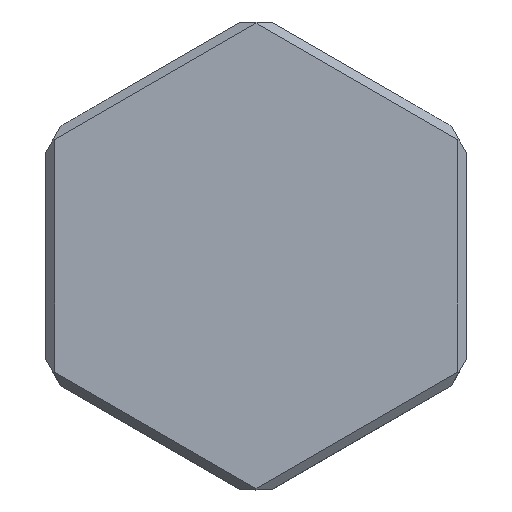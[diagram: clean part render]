
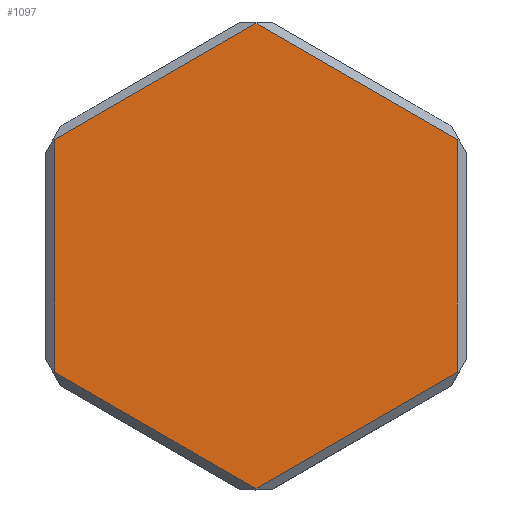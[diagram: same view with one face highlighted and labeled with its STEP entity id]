
A CAD part, top view. The second image highlights one B-rep face of the part: STEP entity #1097.
In plain terms, the highlighted planar face has unit normal (0, 0, 1).
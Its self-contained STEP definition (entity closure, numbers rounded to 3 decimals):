
#907 = VERTEX_POINT('',#908);
#908 = CARTESIAN_POINT('',(0.,63.147,3.5));
#930 = VERTEX_POINT('',#931);
#931 = CARTESIAN_POINT('',(-11.386,56.574,3.5));
#937 = EDGE_CURVE('',#907,#930,#938,.T.);
#938 = LINE('',#939,#940);
#939 = CARTESIAN_POINT('',(0.25,63.292,3.5));
#940 = VECTOR('',#941,1.);
#941 = DIRECTION('',(-0.866,-0.5,0.));
#1064 = VERTEX_POINT('',#1065);
#1065 = CARTESIAN_POINT('',(11.386,56.574,3.5));
#1087 = EDGE_CURVE('',#1064,#907,#1088,.T.);
#1088 = LINE('',#1089,#1090);
#1089 = CARTESIAN_POINT('',(11.636,56.429,3.5));
#1090 = VECTOR('',#1091,1.);
#1091 = DIRECTION('',(-0.866,0.5,0.));
#1097 = ADVANCED_FACE('',(#1098),#1132,.T.);
#1098 = FACE_BOUND('',#1099,.T.);
#1099 = EDGE_LOOP('',(#1100,#1110,#1116,#1117,#1118,#1126));
#1100 = ORIENTED_EDGE('',*,*,#1101,.T.);
#1101 = EDGE_CURVE('',#1102,#1104,#1106,.T.);
#1102 = VERTEX_POINT('',#1103);
#1103 = CARTESIAN_POINT('',(0.,36.853,3.5));
#1104 = VERTEX_POINT('',#1105);
#1105 = CARTESIAN_POINT('',(11.386,43.426,3.5));
#1106 = LINE('',#1107,#1108);
#1107 = CARTESIAN_POINT('',(-0.25,36.708,3.5));
#1108 = VECTOR('',#1109,1.);
#1109 = DIRECTION('',(0.866,0.5,0.));
#1110 = ORIENTED_EDGE('',*,*,#1111,.T.);
#1111 = EDGE_CURVE('',#1104,#1064,#1112,.T.);
#1112 = LINE('',#1113,#1114);
#1113 = CARTESIAN_POINT('',(11.386,43.138,3.5));
#1114 = VECTOR('',#1115,1.);
#1115 = DIRECTION('',(0.,1.,0.));
#1116 = ORIENTED_EDGE('',*,*,#1087,.T.);
#1117 = ORIENTED_EDGE('',*,*,#937,.T.);
#1118 = ORIENTED_EDGE('',*,*,#1119,.T.);
#1119 = EDGE_CURVE('',#930,#1120,#1122,.T.);
#1120 = VERTEX_POINT('',#1121);
#1121 = CARTESIAN_POINT('',(-11.386,43.426,3.5));
#1122 = LINE('',#1123,#1124);
#1123 = CARTESIAN_POINT('',(-11.386,56.862,3.5));
#1124 = VECTOR('',#1125,1.);
#1125 = DIRECTION('',(0.,-1.,0.));
#1126 = ORIENTED_EDGE('',*,*,#1127,.T.);
#1127 = EDGE_CURVE('',#1120,#1102,#1128,.T.);
#1128 = LINE('',#1129,#1130);
#1129 = CARTESIAN_POINT('',(-11.636,43.571,3.5));
#1130 = VECTOR('',#1131,1.);
#1131 = DIRECTION('',(0.866,-0.5,0.));
#1132 = PLANE('',#1133);
#1133 = AXIS2_PLACEMENT_3D('',#1134,#1135,#1136);
#1134 = CARTESIAN_POINT('',(0.,50.,3.5));
#1135 = DIRECTION('',(0.,0.,1.));
#1136 = DIRECTION('',(1.,0.,0.));
